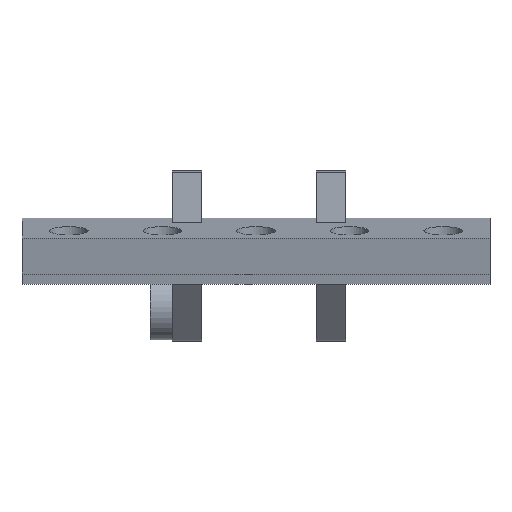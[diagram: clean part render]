
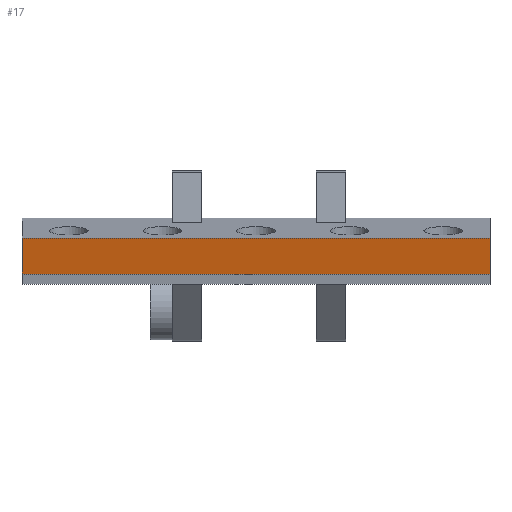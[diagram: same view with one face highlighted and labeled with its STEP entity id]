
A CAD part, left-side view. The second image highlights one B-rep face of the part: STEP entity #17.
In plain terms, the highlighted planar face has unit normal (-0.976, 0, -0.216).
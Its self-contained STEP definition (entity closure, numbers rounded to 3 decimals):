
#17 = ADVANCED_FACE('',(#18),#32,.F.);
#18 = FACE_BOUND('',#19,.F.);
#19 = EDGE_LOOP('',(#20,#55,#83,#111));
#20 = ORIENTED_EDGE('',*,*,#21,.F.);
#21 = EDGE_CURVE('',#22,#24,#26,.T.);
#22 = VERTEX_POINT('',#23);
#23 = CARTESIAN_POINT('',(0.733,21.5,-186.148));
#24 = VERTEX_POINT('',#25);
#25 = CARTESIAN_POINT('',(-1.431,21.5,-176.385));
#26 = SURFACE_CURVE('',#27,(#31,#43),.PCURVE_S1.);
#27 = LINE('',#28,#29);
#28 = CARTESIAN_POINT('',(0.733,21.5,-186.148));
#29 = VECTOR('',#30,1.);
#30 = DIRECTION('',(-0.216,0.,0.976));
#31 = PCURVE('',#32,#37);
#32 = PLANE('',#33);
#33 = AXIS2_PLACEMENT_3D('',#34,#35,#36);
#34 = CARTESIAN_POINT('',(0.733,21.5,-186.148));
#35 = DIRECTION('',(0.976,0.,0.216));
#36 = DIRECTION('',(-0.216,0.,0.976));
#37 = DEFINITIONAL_REPRESENTATION('',(#38),#42);
#38 = LINE('',#39,#40);
#39 = CARTESIAN_POINT('',(0.,0.));
#40 = VECTOR('',#41,1.);
#41 = DIRECTION('',(1.,0.));
#42 = ( GEOMETRIC_REPRESENTATION_CONTEXT(2) 
PARAMETRIC_REPRESENTATION_CONTEXT() REPRESENTATION_CONTEXT('2D SPACE',''
  ) );
#43 = PCURVE('',#44,#49);
#44 = PLANE('',#45);
#45 = AXIS2_PLACEMENT_3D('',#46,#47,#48);
#46 = CARTESIAN_POINT('',(0.733,21.5,-186.148));
#47 = DIRECTION('',(0.,1.,0.));
#48 = DIRECTION('',(-0.216,0.,0.976));
#49 = DEFINITIONAL_REPRESENTATION('',(#50),#54);
#50 = LINE('',#51,#52);
#51 = CARTESIAN_POINT('',(0.,0.));
#52 = VECTOR('',#53,1.);
#53 = DIRECTION('',(1.,0.));
#54 = ( GEOMETRIC_REPRESENTATION_CONTEXT(2) 
PARAMETRIC_REPRESENTATION_CONTEXT() REPRESENTATION_CONTEXT('2D SPACE',''
  ) );
#55 = ORIENTED_EDGE('',*,*,#56,.T.);
#56 = EDGE_CURVE('',#22,#57,#59,.T.);
#57 = VERTEX_POINT('',#58);
#58 = CARTESIAN_POINT('',(0.733,148.5,-186.148));
#59 = SURFACE_CURVE('',#60,(#64,#71),.PCURVE_S1.);
#60 = LINE('',#61,#62);
#61 = CARTESIAN_POINT('',(0.733,21.5,-186.148));
#62 = VECTOR('',#63,1.);
#63 = DIRECTION('',(0.,1.,0.));
#64 = PCURVE('',#32,#65);
#65 = DEFINITIONAL_REPRESENTATION('',(#66),#70);
#66 = LINE('',#67,#68);
#67 = CARTESIAN_POINT('',(0.,0.));
#68 = VECTOR('',#69,1.);
#69 = DIRECTION('',(0.,-1.));
#70 = ( GEOMETRIC_REPRESENTATION_CONTEXT(2) 
PARAMETRIC_REPRESENTATION_CONTEXT() REPRESENTATION_CONTEXT('2D SPACE',''
  ) );
#71 = PCURVE('',#72,#77);
#72 = PLANE('',#73);
#73 = AXIS2_PLACEMENT_3D('',#74,#75,#76);
#74 = CARTESIAN_POINT('',(0.733,21.5,-186.148));
#75 = DIRECTION('',(-0.216,0.,0.976));
#76 = DIRECTION('',(0.976,0.,0.216));
#77 = DEFINITIONAL_REPRESENTATION('',(#78),#82);
#78 = LINE('',#79,#80);
#79 = CARTESIAN_POINT('',(0.,0.));
#80 = VECTOR('',#81,1.);
#81 = DIRECTION('',(0.,1.));
#82 = ( GEOMETRIC_REPRESENTATION_CONTEXT(2) 
PARAMETRIC_REPRESENTATION_CONTEXT() REPRESENTATION_CONTEXT('2D SPACE',''
  ) );
#83 = ORIENTED_EDGE('',*,*,#84,.T.);
#84 = EDGE_CURVE('',#57,#85,#87,.T.);
#85 = VERTEX_POINT('',#86);
#86 = CARTESIAN_POINT('',(-1.431,148.5,-176.385));
#87 = SURFACE_CURVE('',#88,(#92,#99),.PCURVE_S1.);
#88 = LINE('',#89,#90);
#89 = CARTESIAN_POINT('',(0.733,148.5,-186.148));
#90 = VECTOR('',#91,1.);
#91 = DIRECTION('',(-0.216,0.,0.976));
#92 = PCURVE('',#32,#93);
#93 = DEFINITIONAL_REPRESENTATION('',(#94),#98);
#94 = LINE('',#95,#96);
#95 = CARTESIAN_POINT('',(0.,-127.));
#96 = VECTOR('',#97,1.);
#97 = DIRECTION('',(1.,0.));
#98 = ( GEOMETRIC_REPRESENTATION_CONTEXT(2) 
PARAMETRIC_REPRESENTATION_CONTEXT() REPRESENTATION_CONTEXT('2D SPACE',''
  ) );
#99 = PCURVE('',#100,#105);
#100 = PLANE('',#101);
#101 = AXIS2_PLACEMENT_3D('',#102,#103,#104);
#102 = CARTESIAN_POINT('',(0.733,148.5,-186.148));
#103 = DIRECTION('',(0.,1.,0.));
#104 = DIRECTION('',(-0.216,0.,0.976));
#105 = DEFINITIONAL_REPRESENTATION('',(#106),#110);
#106 = LINE('',#107,#108);
#107 = CARTESIAN_POINT('',(0.,0.));
#108 = VECTOR('',#109,1.);
#109 = DIRECTION('',(1.,0.));
#110 = ( GEOMETRIC_REPRESENTATION_CONTEXT(2) 
PARAMETRIC_REPRESENTATION_CONTEXT() REPRESENTATION_CONTEXT('2D SPACE',''
  ) );
#111 = ORIENTED_EDGE('',*,*,#112,.F.);
#112 = EDGE_CURVE('',#24,#85,#113,.T.);
#113 = SURFACE_CURVE('',#114,(#118,#125),.PCURVE_S1.);
#114 = LINE('',#115,#116);
#115 = CARTESIAN_POINT('',(-1.431,21.5,-176.385));
#116 = VECTOR('',#117,1.);
#117 = DIRECTION('',(0.,1.,0.));
#118 = PCURVE('',#32,#119);
#119 = DEFINITIONAL_REPRESENTATION('',(#120),#124);
#120 = LINE('',#121,#122);
#121 = CARTESIAN_POINT('',(10.,0.));
#122 = VECTOR('',#123,1.);
#123 = DIRECTION('',(0.,-1.));
#124 = ( GEOMETRIC_REPRESENTATION_CONTEXT(2) 
PARAMETRIC_REPRESENTATION_CONTEXT() REPRESENTATION_CONTEXT('2D SPACE',''
  ) );
#125 = PCURVE('',#126,#131);
#126 = PLANE('',#127);
#127 = AXIS2_PLACEMENT_3D('',#128,#129,#130);
#128 = CARTESIAN_POINT('',(-1.431,21.5,-176.385));
#129 = DIRECTION('',(-0.216,0.,0.976));
#130 = DIRECTION('',(0.976,0.,0.216));
#131 = DEFINITIONAL_REPRESENTATION('',(#132),#136);
#132 = LINE('',#133,#134);
#133 = CARTESIAN_POINT('',(0.,0.));
#134 = VECTOR('',#135,1.);
#135 = DIRECTION('',(0.,1.));
#136 = ( GEOMETRIC_REPRESENTATION_CONTEXT(2) 
PARAMETRIC_REPRESENTATION_CONTEXT() REPRESENTATION_CONTEXT('2D SPACE',''
  ) );
